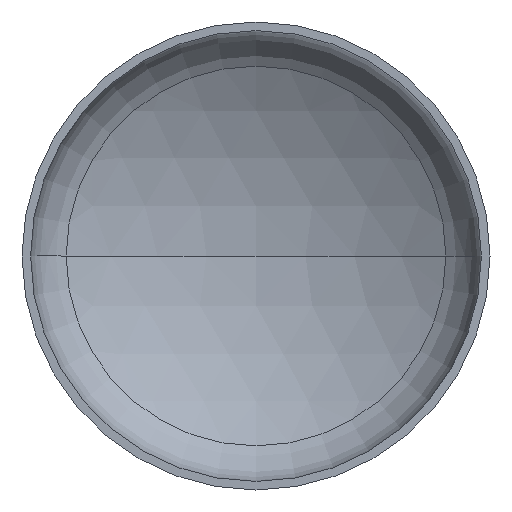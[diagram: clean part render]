
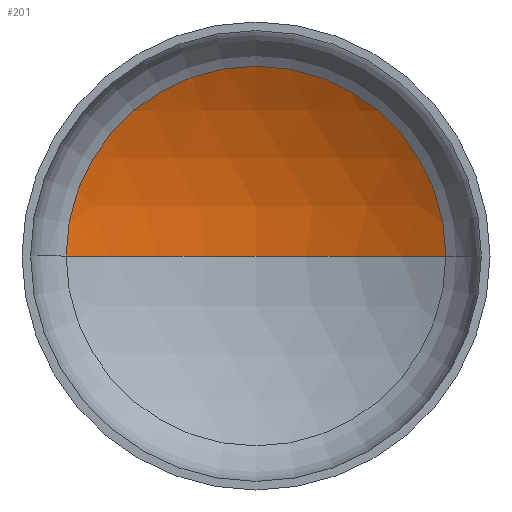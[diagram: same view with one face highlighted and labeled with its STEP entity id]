
A CAD part, front view. The second image highlights one B-rep face of the part: STEP entity #201.
In plain terms, the highlighted spherical face has radius 2080 mm.
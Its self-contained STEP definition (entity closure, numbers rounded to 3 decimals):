
#22 = AXIS2_PLACEMENT_3D ( 'NONE', #197, #289, #243 ) ;
#23 = EDGE_LOOP ( 'NONE', ( #119, #151, #116 ) ) ;
#35 = AXIS2_PLACEMENT_3D ( 'NONE', #376, #186, #204 ) ;
#38 = AXIS2_PLACEMENT_3D ( 'NONE', #334, #310, #172 ) ;
#40 = AXIS2_PLACEMENT_3D ( 'NONE', #212, #215, #191 ) ;
#69 = CIRCLE ( 'NONE', #35, 2080. ) ;
#106 = EDGE_CURVE ( 'NONE', #277, #147, #370, .T. ) ;
#109 = EDGE_CURVE ( 'NONE', #137, #277, #309, .T. ) ;
#116 = ORIENTED_EDGE ( 'NONE', *, *, #106, .T. ) ;
#119 = ORIENTED_EDGE ( 'NONE', *, *, #144, .F. ) ;
#137 = VERTEX_POINT ( 'NONE', #300 ) ;
#144 = EDGE_CURVE ( 'NONE', #137, #147, #69, .T. ) ;
#147 = VERTEX_POINT ( 'NONE', #169 ) ;
#151 = ORIENTED_EDGE ( 'NONE', *, *, #109, .T. ) ;
#169 = CARTESIAN_POINT ( 'NONE',  ( -1054.857, 494.745, 0. ) ) ;
#172 = DIRECTION ( 'NONE',  ( -1., 0., 0. ) ) ;
#186 = DIRECTION ( 'NONE',  ( 0., 0., 1. ) ) ;
#191 = DIRECTION ( 'NONE',  ( 1., 0., 0. ) ) ;
#197 = CARTESIAN_POINT ( 'NONE',  ( 0., -1297.928, 0. ) ) ;
#201 = ADVANCED_FACE ( 'NONE', ( #355 ), #244, .F. ) ;
#204 = DIRECTION ( 'NONE',  ( 1., 0., 0. ) ) ;
#212 = CARTESIAN_POINT ( 'NONE',  ( 0., 494.745, 0. ) ) ;
#215 = DIRECTION ( 'NONE',  ( 0., -1., 0. ) ) ;
#243 = DIRECTION ( 'NONE',  ( -1., 0., 0. ) ) ;
#244 = SPHERICAL_SURFACE ( 'NONE', #22, 2080. ) ;
#277 = VERTEX_POINT ( 'NONE', #372 ) ;
#289 = DIRECTION ( 'NONE',  ( 0., 0., -1. ) ) ;
#300 = CARTESIAN_POINT ( 'NONE',  ( 0., 782.072, 0. ) ) ;
#309 = CIRCLE ( 'NONE', #38, 2080. ) ;
#310 = DIRECTION ( 'NONE',  ( 0., 0., -1. ) ) ;
#334 = CARTESIAN_POINT ( 'NONE',  ( 0., -1297.928, 0. ) ) ;
#355 = FACE_OUTER_BOUND ( 'NONE', #23, .T. ) ;
#370 = CIRCLE ( 'NONE', #40, 1054.857 ) ;
#372 = CARTESIAN_POINT ( 'NONE',  ( 1054.857, 494.745, 0. ) ) ;
#376 = CARTESIAN_POINT ( 'NONE',  ( 0., -1297.928, 0. ) ) ;
